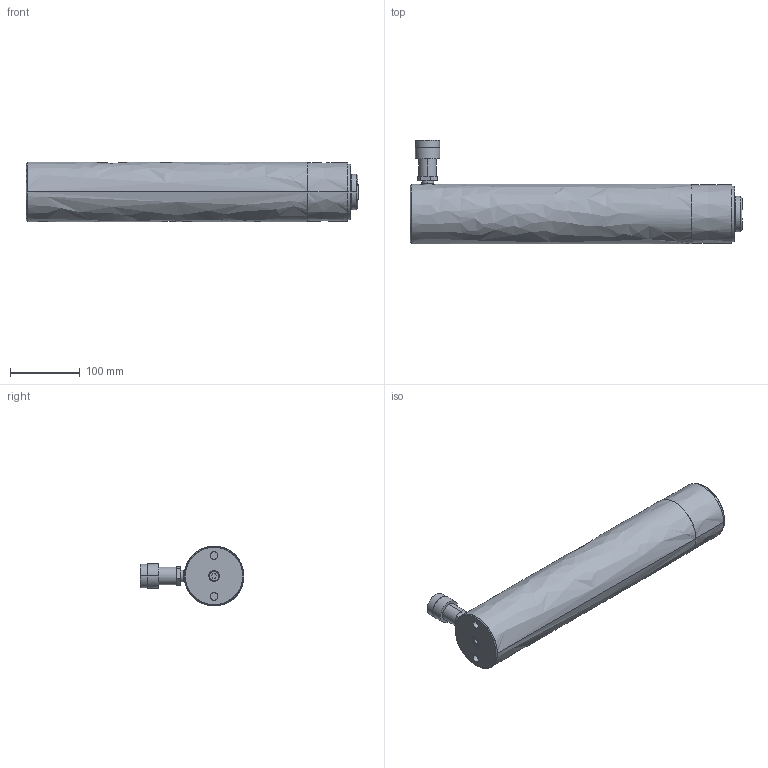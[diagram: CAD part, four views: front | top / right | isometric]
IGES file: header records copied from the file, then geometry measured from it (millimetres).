
Start section:  PTC IGES file: RC2514.igs
Global section: file name: RC2514.igs; native system: Creo Parametric by PTC Inc.; preprocessor: 2018400; author: mike.ward; organization: Unknown; date: 20191105.100509; units: inch
Bounding box: 477.16 x 149.22 x 85.7 mm (x, y, z)
Surface area: 162285.4 mm2 (no closed solid volume)
Topology: 0 solids, 0 shells, 202 faces, 950 edges, 950 vertices
Faces by surface type: revolution 141, bspline 61
